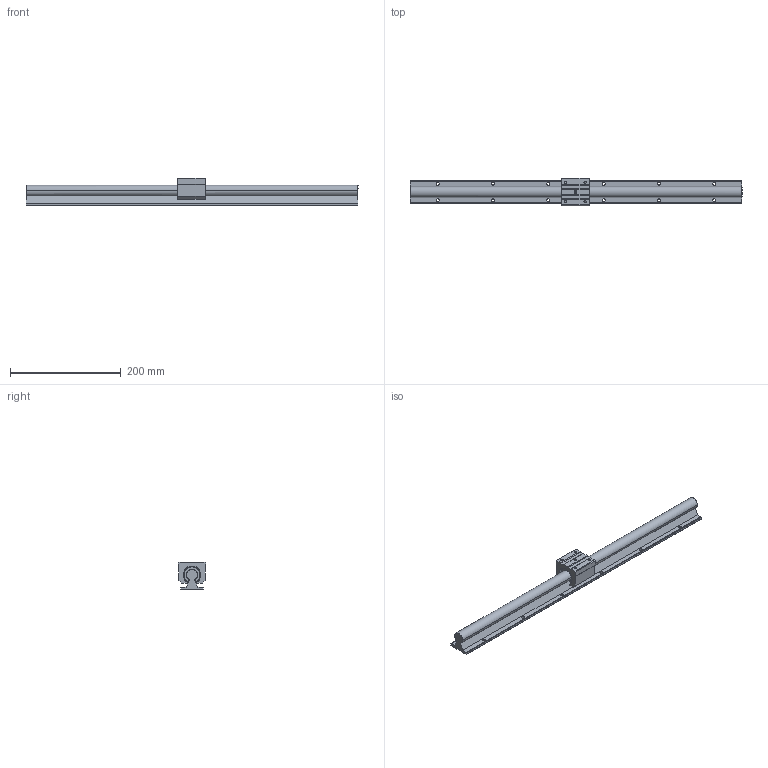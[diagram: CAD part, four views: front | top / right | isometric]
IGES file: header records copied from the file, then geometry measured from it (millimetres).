
Global section: file name: No Iges File Name specified; native system: AutoDesk Inventor R10; preprocessor: AutoDesk Inventor Iges Exporter R10; author: No Author specified; organization: No Organization specified; date: 20101221.091657; units: millimetre
Bounding box: 600 x 50 x 50 mm (x, y, z)
Surface area: 109437.9 mm2 (no closed solid volume)
Topology: 0 solids, 0 shells, 240 faces, 1596 edges, 1574 vertices
Faces by surface type: bspline 240
